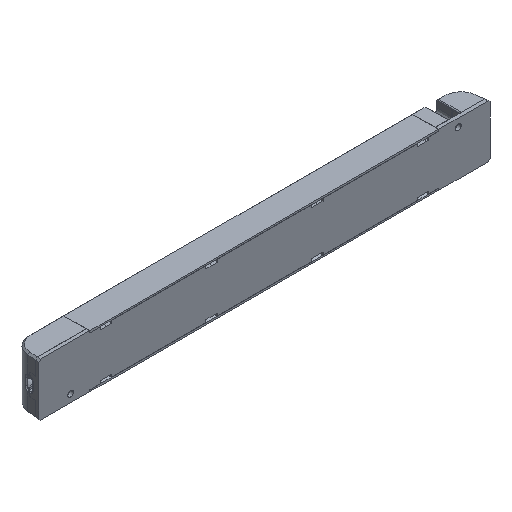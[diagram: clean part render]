
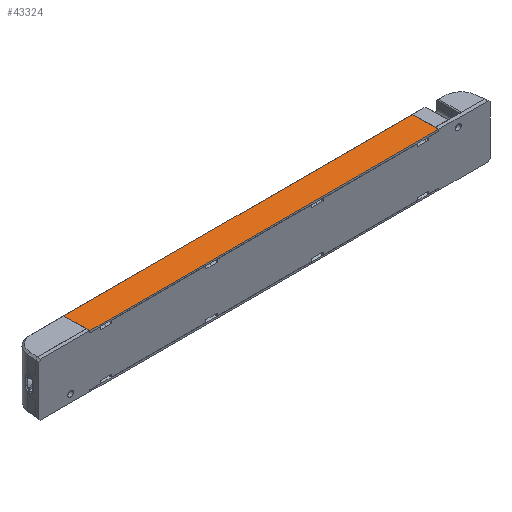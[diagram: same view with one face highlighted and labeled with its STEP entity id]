
A CAD part, isometric view. The second image highlights one B-rep face of the part: STEP entity #43324.
In plain terms, the highlighted planar face has unit normal (0, 0.018, 1).
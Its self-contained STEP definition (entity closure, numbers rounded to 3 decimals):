
#1352 = CARTESIAN_POINT ( 'NONE',  ( -99., 0., 15. ) ) ;
#3378 = LINE ( 'NONE', #1352, #17463 ) ;
#3941 = VERTEX_POINT ( 'NONE', #4872 ) ;
#4872 = CARTESIAN_POINT ( 'NONE',  ( -99., 0., 15. ) ) ;
#5227 = EDGE_CURVE ( 'NONE', #21641, #48106, #36097, .T. ) ;
#9659 = EDGE_CURVE ( 'NONE', #3941, #12010, #3378, .T. ) ;
#10936 = ORIENTED_EDGE ( 'NONE', *, *, #5227, .F. ) ;
#11199 = FACE_OUTER_BOUND ( 'NONE', #40273, .T. ) ;
#12010 = VERTEX_POINT ( 'NONE', #19810 ) ;
#14311 = CARTESIAN_POINT ( 'NONE',  ( 99., 0., 15. ) ) ;
#14538 = CARTESIAN_POINT ( 'NONE',  ( -100.22, 0., 15. ) ) ;
#14759 = CARTESIAN_POINT ( 'NONE',  ( -99., 0., 15. ) ) ;
#15146 = CARTESIAN_POINT ( 'NONE',  ( -99., 15., 14.738 ) ) ;
#17463 = VECTOR ( 'NONE', #31564, 1000. ) ;
#18787 = DIRECTION ( 'NONE',  ( 1., 0., 0. ) ) ;
#19810 = CARTESIAN_POINT ( 'NONE',  ( -99., 15., 14.738 ) ) ;
#21641 = VERTEX_POINT ( 'NONE', #24441 ) ;
#21977 = DIRECTION ( 'NONE',  ( 1., 0., 0. ) ) ;
#22022 = EDGE_CURVE ( 'NONE', #12010, #21641, #47791, .T. ) ;
#22699 = AXIS2_PLACEMENT_3D ( 'NONE', #14538, #44444, #21977 ) ;
#24441 = CARTESIAN_POINT ( 'NONE',  ( 99., 15., 14.738 ) ) ;
#27260 = CARTESIAN_POINT ( 'NONE',  ( 99., 15., 14.738 ) ) ;
#27576 = DIRECTION ( 'NONE',  ( 0., -1., 0.017 ) ) ;
#27850 = VECTOR ( 'NONE', #18787, 1000. ) ;
#29089 = VECTOR ( 'NONE', #27576, 1000. ) ;
#30350 = DIRECTION ( 'NONE',  ( 1., 0., 0. ) ) ;
#31564 = DIRECTION ( 'NONE',  ( 0., 1., -0.017 ) ) ;
#34204 = VECTOR ( 'NONE', #30350, 1000. ) ;
#35164 = ORIENTED_EDGE ( 'NONE', *, *, #42695, .T. ) ;
#36097 = LINE ( 'NONE', #27260, #29089 ) ;
#36879 = PLANE ( 'NONE',  #22699 ) ;
#37763 = LINE ( 'NONE', #14759, #34204 ) ;
#39946 = ORIENTED_EDGE ( 'NONE', *, *, #22022, .F. ) ;
#40273 = EDGE_LOOP ( 'NONE', ( #47711, #35164, #10936, #39946 ) ) ;
#42695 = EDGE_CURVE ( 'NONE', #3941, #48106, #37763, .T. ) ;
#43324 = ADVANCED_FACE ( 'NONE', ( #11199 ), #36879, .T. ) ;
#44444 = DIRECTION ( 'NONE',  ( 0., 0.017, 1. ) ) ;
#47711 = ORIENTED_EDGE ( 'NONE', *, *, #9659, .F. ) ;
#47791 = LINE ( 'NONE', #15146, #27850 ) ;
#48106 = VERTEX_POINT ( 'NONE', #14311 ) ;
